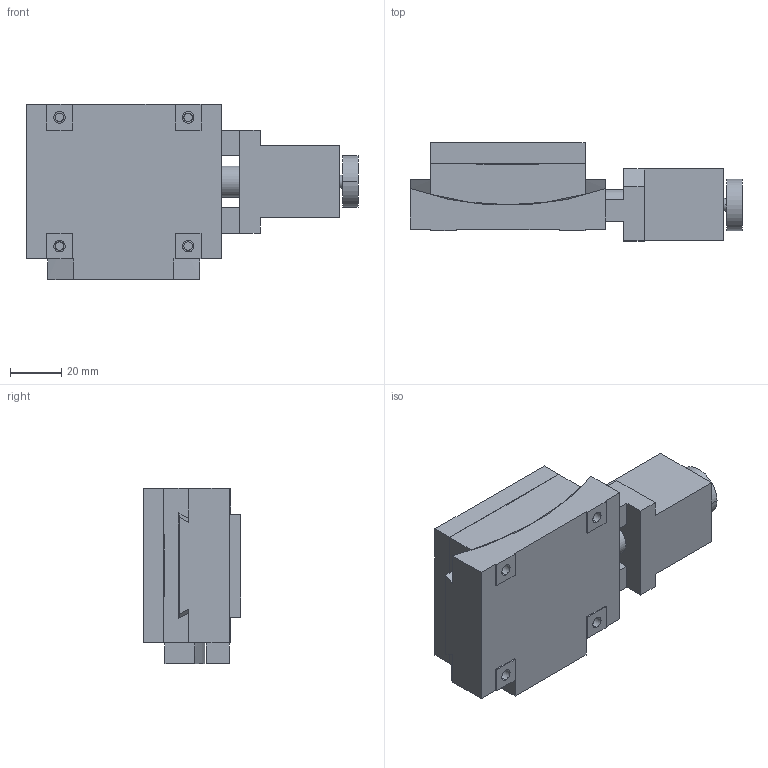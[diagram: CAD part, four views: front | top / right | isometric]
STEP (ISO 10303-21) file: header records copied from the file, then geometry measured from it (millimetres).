
FILE_DESCRIPTION (( 'STEP AP203' ), '1' );
FILE_NAME ('ATS-C612-EM.STEP', '2008-03-26T10:56:28', ( '' ), ( '' ), 'SwSTEP 2.0', 'SolidWorks 2007', '' );
FILE_SCHEMA (( 'CONFIG_CONTROL_DESIGN' ));
Length unit declared in the file: millimetre
Products named in the file (4): ATS-C612-EM; ATS-C612-EM-1_蹬怮椔; ATS-C612-EM-3_蹬怮椔; ATS-C612-EM-2_蹬怮椔
Assembly tree (3 placements, depth 2):
  ATS-C612-EM
    ATS-C612-EM-2_蹬怮椔
    ATS-C612-EM-3_蹬怮椔
    ATS-C612-EM-1_蹬怮椔
Bounding box: 129 x 38 x 68 mm (x, y, z)
Volume: 179905.5 mm3; surface area: 48440 mm2
Topology: 3 solids, 3 shells, 216 faces, 538 edges, 358 vertices
Faces by surface type: cylinder 108, plane 104, cone 4
Entity records: 7582 total; most frequent: CARTESIAN_POINT 1790, DIRECTION 1140, ORIENTED_EDGE 1076, EDGE_CURVE 538, AXIS2_PLACEMENT_3D 416, VERTEX_POINT 358, VECTOR 308, LINE 308
